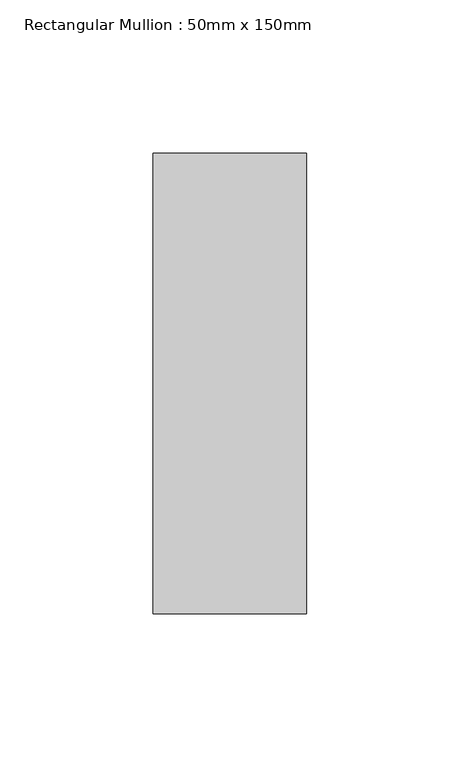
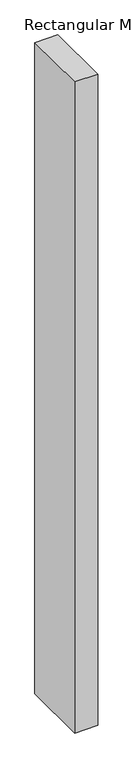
"""IFC4 building model written with IfcOpenShell, lengths in millimetres: member geometry, Rectangular Mullion : 50mm x 150mm."""

import ifcopenshell
import ifcopenshell.guid

model = None  # the IFC model being written
_history = None  # IfcOwnerHistory: only IFC2X3 demands one
_inside = {}  # id of a spatial element -> (the spatial element, [elements in it])
_under = {}  # id of a project, library or spatial element -> (it, [spatial elements below it])
_declared = {}  # id of a project -> (the project, [libraries it declares])
_typed = {}  # id of a type object -> (the type object, [elements of that type])
_made_of = {}  # id of a material, layer set ... -> (it, [elements and type objects made of it])


def new_model(schema):
    """Start an empty IFC model of exactly this schema.

    Asked for "IFC4X3", IfcOpenShell would pick the latest addendum, in which some entities
    have other attributes; the version numbers below select the first issue.
    IFC2X3 requires an IfcOwnerHistory on every rooted entity: one is made here for all.
    """
    global model, _history
    if schema == "IFC4X3":
        model = ifcopenshell.file(schema_version=(4, 3, 0, 0))
    else:
        model = ifcopenshell.file(schema=schema)
    _inside.clear()
    _under.clear()
    _declared.clear()
    _typed.clear()
    _made_of.clear()
    _history = None
    if model.schema == "IFC2X3":
        org = make("IfcOrganization", Name="unknown")
        user = make(
            "IfcPersonAndOrganization",
            ThePerson=make("IfcPerson", FamilyName="unknown"),
            TheOrganization=org,
        )
        app = make(
            "IfcApplication",
            ApplicationDeveloper=org,
            Version="unknown",
            ApplicationFullName="unknown",
            ApplicationIdentifier="unknown",
        )
        _history = make(
            "IfcOwnerHistory",
            OwningUser=user,
            OwningApplication=app,
            ChangeAction="ADDED",
            CreationDate=0,
        )
    return model


def make(cls, **values):
    """One entity of the class cls with the attributes given. An attribute that is None is left unset."""
    return model.create_entity(
        cls, **{name: value for name, value in values.items() if value is not None}
    )


def rooted(cls, **values):
    """An entity with a GlobalId (a new one), such as an element, a storey or a relation."""
    return make(cls, GlobalId=ifcopenshell.guid.new(), OwnerHistory=_history, **values)


def si_unit(unit_type, name, prefix=None):
    """IfcSIUnit, for example si_unit("LENGTHUNIT", "METRE", prefix="MILLI")."""
    return make("IfcSIUnit", UnitType=unit_type, Prefix=prefix, Name=name)


def assignment(units):
    """IfcUnitAssignment: the units of a project."""
    return None if units is None else make("IfcUnitAssignment", Units=units)


def point(xyz):
    """IfcCartesianPoint."""
    return None if xyz is None else make("IfcCartesianPoint", Coordinates=xyz)


def direction(xyz):
    """IfcDirection."""
    return None if xyz is None else make("IfcDirection", DirectionRatios=xyz)


def frame(location, z_axis=None, x_axis=None):
    """IfcAxis2Placement3D, a coordinate frame: its origin and axes. An axis left out is left unset."""
    return make(
        "IfcAxis2Placement3D",
        Location=point(location),
        Axis=direction(z_axis),
        RefDirection=direction(x_axis),
    )


def origin():
    """The frame at (0, 0, 0) with its axes left unset."""
    return frame((0.0, 0.0, 0.0))


def place(relative_to, where):
    """IfcLocalPlacement: puts the frame where relative to a parent placement (None: the world)."""
    return make(
        "IfcLocalPlacement", PlacementRelTo=relative_to, RelativePlacement=where
    )


def context(
    kind, dimensions, precision=None, world=None, true_north=None, identifier=None
):
    """IfcGeometricRepresentationContext, for example the 3D "Model" context."""
    return make(
        "IfcGeometricRepresentationContext",
        ContextIdentifier=identifier,
        ContextType=kind,
        CoordinateSpaceDimension=dimensions,
        Precision=precision,
        WorldCoordinateSystem=world,
        TrueNorth=true_north,
    )


def project(units=None, contexts=None):
    """IfcProject with its units and contexts."""
    return rooted(
        "IfcProject",
        Name="project",
        RepresentationContexts=contexts,
        UnitsInContext=assignment(units),
    )


def spatial(cls, under=None, at=None, **own):
    """A site, building, storey or space (cls), placed at a placement, below another one or the project."""
    s = rooted(cls, ObjectPlacement=at, **own)
    if under is not None:
        _under.setdefault(under.id(), (under, []))[1].append(s)
    return s


def polyline(points):
    """IfcPolyline through the points."""
    return make("IfcPolyline", Points=[point(p) for p in points])


def outline(outer, holes=None, kind="AREA"):
    """IfcArbitraryClosedProfileDef: a profile drawn as a closed curve; with holes, ...WithVoids."""
    if holes is None:
        return make("IfcArbitraryClosedProfileDef", ProfileType=kind, OuterCurve=outer)
    return make(
        "IfcArbitraryProfileDefWithVoids",
        ProfileType=kind,
        OuterCurve=outer,
        InnerCurves=holes,
    )


def extrude(swept, where, along, depth):
    """IfcExtrudedAreaSolid: the profile swept, set in the frame where, extruded along a direction by depth."""
    return make(
        "IfcExtrudedAreaSolid",
        SweptArea=swept,
        Position=where,
        ExtrudedDirection=direction(along),
        Depth=depth,
    )


def shape(context_of_items, identifier, shape_type, items):
    """IfcShapeRepresentation: the items that make up one representation, for example the "Body"."""
    return make(
        "IfcShapeRepresentation",
        ContextOfItems=context_of_items,
        RepresentationIdentifier=identifier,
        RepresentationType=shape_type,
        Items=items,
    )


def source(mapping_origin, context_of_items, identifier, shape_type, items):
    """IfcRepresentationMap: a shape defined once, which mapped items show again and again."""
    return make(
        "IfcRepresentationMap",
        MappingOrigin=mapping_origin,
        MappedRepresentation=shape(context_of_items, identifier, shape_type, items),
    )


def transform(
    local_origin,
    x_axis=None,
    y_axis=None,
    z_axis=None,
    scale=None,
    scale2=None,
    scale3=None,
    uniform=True,
):
    """IfcCartesianTransformationOperator3D, or its non-uniform kind. x_axis, y_axis, z_axis: its Axis1, 2, 3."""
    if uniform:
        return make(
            "IfcCartesianTransformationOperator3D",
            Axis1=direction(x_axis),
            Axis2=direction(y_axis),
            LocalOrigin=point(local_origin),
            Scale=scale,
            Axis3=direction(z_axis),
        )
    return make(
        "IfcCartesianTransformationOperator3DnonUniform",
        Axis1=direction(x_axis),
        Axis2=direction(y_axis),
        LocalOrigin=point(local_origin),
        Scale=scale,
        Axis3=direction(z_axis),
        Scale2=scale2,
        Scale3=scale3,
    )


def mapped(mapping_source, mapping_target):
    """IfcMappedItem: shows the shape of a source again, moved by a transform."""
    return make(
        "IfcMappedItem", MappingSource=mapping_source, MappingTarget=mapping_target
    )


def made_of(thing, what):
    """Note that an element or type object is made of a material, layer set ...; save() writes the relation."""
    if what is not None:
        _made_of.setdefault(what.id(), (what, []))[1].append(thing)
    return thing


def element(
    cls,
    number,
    at=None,
    inside=None,
    cuts=None,
    type_object=None,
    material=None,
    context=None,
    identifier="Body",
    shape_type=None,
    held_by="IfcProductDefinitionShape",
    body=None,
    shapes=None,
    **own,
):
    """One element of the class cls, such as IfcWall. Its Tag is "e" and its number.

    at: its placement. inside: the storey or other place that contains it. cuts: it is an
    opening in that element (IfcRelVoidsElement). A single representation is given by context,
    identifier, shape_type and body (its items); several are given by shapes. held_by: the class
    of the entity that holds the representations. save() writes the other relations.
    """
    e = rooted(cls, Tag="e%d" % number, ObjectPlacement=at, **own)
    if body is not None:
        shapes = [shape(context, identifier, shape_type, body)]
    if shapes is not None:
        e.Representation = make(held_by, Representations=shapes)
    if inside is not None:
        _inside.setdefault(inside.id(), (inside, []))[1].append(e)
    if cuts is not None:
        rooted(
            "IfcRelVoidsElement", RelatingBuildingElement=cuts, RelatedOpeningElement=e
        )
    if type_object is not None:
        _typed.setdefault(type_object.id(), (type_object, []))[1].append(e)
    return made_of(e, material)


def aggregate(whole, parts):
    """IfcRelAggregates: a whole, such as a stair, and the parts it consists of."""
    return rooted("IfcRelAggregates", RelatingObject=whole, RelatedObjects=parts)


def save(model, path):
    """Write the relations noted so far, then the file.

    IfcRelAggregates (storeys below a building ...), IfcRelContainedInSpatialStructure (elements
    in a storey), IfcRelDefinesByType, IfcRelAssociatesMaterial and IfcRelDeclares: one each for
    every whole, place, type object, material and project.
    """
    for whole, parts in _under.values():
        aggregate(whole, parts)
    for where, things in _inside.values():
        rooted(
            "IfcRelContainedInSpatialStructure",
            RelatedElements=things,
            RelatingStructure=where,
        )
    for kind, things in _typed.values():
        rooted("IfcRelDefinesByType", RelatedObjects=things, RelatingType=kind)
    for what, things in _made_of.values():
        rooted("IfcRelAssociatesMaterial", RelatedObjects=things, RelatingMaterial=what)
    for by, libraries in _declared.values():
        rooted("IfcRelDeclares", RelatingContext=by, RelatedDefinitions=libraries)
    model.write(path)


def rectangular_mullion_50mm_x_150mm_461a195c(model_context):
    return source(origin(), model_context, "Body", "SweptSolid", [
        extrude(outline(polyline([(0.0, 75.0), (0.0, -75.0), (-50.0, -75.0), (-50.0, 75.0), (0.0, 75.0)])), frame((0.0, 0.0, -1500.0), z_axis=(0.0, 0.0, 1.0), x_axis=(1.0, 0.0, 0.0)), (0.0, 0.0, 1.0), 1500.0),
    ])


if __name__ == "__main__":
    model = new_model("IFC4")
    model_context = context("Model", 3, world=origin())
    ifc_project = project(units=[si_unit("LENGTHUNIT", "METRE", prefix="MILLI")], contexts=[model_context])
    site = spatial("IfcSite", under=ifc_project)
    building = spatial("IfcBuilding", under=site)
    placement = place(None, origin())
    rectangular_mullion_50mm_x_150mm_shape = rectangular_mullion_50mm_x_150mm_461a195c(model_context)
    element("IfcMember", 1, ObjectType="Rectangular Mullion : 50mm x 150mm", at=placement, inside=building, context=model_context, shape_type="MappedRepresentation", body=[
        mapped(rectangular_mullion_50mm_x_150mm_shape, transform((0.0, 0.0, 0.0), x_axis=(1.0, 0.0, 0.0), y_axis=(0.0, 1.0, 0.0), z_axis=(0.0, 0.0, 1.0))),
    ])
    save(model, "model.ifc")
